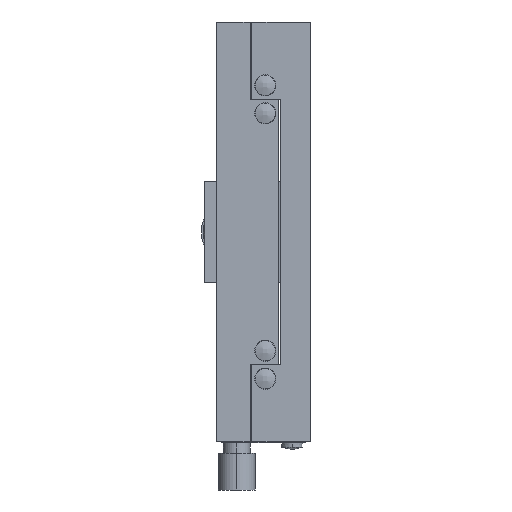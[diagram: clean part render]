
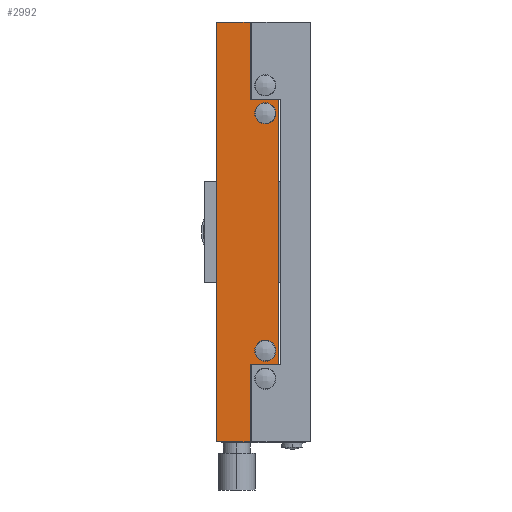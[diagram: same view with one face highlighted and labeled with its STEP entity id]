
A CAD part, left-side view. The second image highlights one B-rep face of the part: STEP entity #2992.
In plain terms, the highlighted planar face has unit normal (-1, 0, 0).
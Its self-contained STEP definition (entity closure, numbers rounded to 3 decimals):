
#1714 = VERTEX_POINT ( 'NONE', #7493 ) ;
#1715 = VERTEX_POINT ( 'NONE', #7492 ) ;
#1717 = EDGE_CURVE ( 'NONE', #1715, #1714, #7491, .T. ) ;
#2020 = EDGE_CURVE ( 'NONE', #2021, #2022, #7837, .T. ) ;
#2021 = VERTEX_POINT ( 'NONE', #7833 ) ;
#2022 = VERTEX_POINT ( 'NONE', #7832 ) ;
#2165 = EDGE_CURVE ( 'NONE', #2217, #2218, #8638, .T. ) ;
#2215 = EDGE_CURVE ( 'NONE', #2280, #2283, #8673, .T. ) ;
#2217 = VERTEX_POINT ( 'NONE', #8669 ) ;
#2218 = VERTEX_POINT ( 'NONE', #8668 ) ;
#2241 = EDGE_CURVE ( 'NONE', #1714, #1715, #9070, .T. ) ;
#2280 = VERTEX_POINT ( 'NONE', #8998 ) ;
#2282 = EDGE_CURVE ( 'NONE', #2283, #2280, #8997, .T. ) ;
#2283 = VERTEX_POINT ( 'NONE', #8992 ) ;
#2674 = ORIENTED_EDGE ( 'NONE', *, *, #2241, .T. ) ;
#2692 = ORIENTED_EDGE ( 'NONE', *, *, #2020, .F. ) ;
#2693 = ORIENTED_EDGE ( 'NONE', *, *, #2694, .F. ) ;
#2694 = EDGE_CURVE ( 'NONE', #2695, #2021, #11044, .T. ) ;
#2695 = VERTEX_POINT ( 'NONE', #11039 ) ;
#2696 = ORIENTED_EDGE ( 'NONE', *, *, #2697, .F. ) ;
#2697 = EDGE_CURVE ( 'NONE', #2698, #2695, #11040, .T. ) ;
#2698 = VERTEX_POINT ( 'NONE', #11029 ) ;
#2699 = ORIENTED_EDGE ( 'NONE', *, *, #2700, .F. ) ;
#2700 = EDGE_CURVE ( 'NONE', #2701, #2698, #11028, .T. ) ;
#2701 = VERTEX_POINT ( 'NONE', #11024 ) ;
#2702 = ORIENTED_EDGE ( 'NONE', *, *, #2703, .F. ) ;
#2703 = EDGE_CURVE ( 'NONE', #2704, #2701, #11023, .T. ) ;
#2704 = VERTEX_POINT ( 'NONE', #11019 ) ;
#2705 = ORIENTED_EDGE ( 'NONE', *, *, #2743, .F. ) ;
#2743 = EDGE_CURVE ( 'NONE', #2218, #2704, #10951, .T. ) ;
#2744 = ORIENTED_EDGE ( 'NONE', *, *, #2165, .F. ) ;
#2745 = EDGE_LOOP ( 'NONE', ( #2746, #2747 ) ) ;
#2746 = ORIENTED_EDGE ( 'NONE', *, *, #2282, .T. ) ;
#2747 = ORIENTED_EDGE ( 'NONE', *, *, #2215, .T. ) ;
#2748 = EDGE_LOOP ( 'NONE', ( #2749, #2674 ) ) ;
#2749 = ORIENTED_EDGE ( 'NONE', *, *, #1717, .T. ) ;
#2992 = ADVANCED_FACE ( 'NONE', ( #10496, #10495, #10494 ), #10493, .F. ) ;
#2993 = EDGE_LOOP ( 'NONE', ( #2994, #2692, #2693, #2696, #2699, #2702, #2705, #2744 ) ) ;
#2994 = ORIENTED_EDGE ( 'NONE', *, *, #2995, .F. ) ;
#2995 = EDGE_CURVE ( 'NONE', #2022, #2217, #10488, .T. ) ;
#7487 = DIRECTION ( 'NONE',  ( 0., 0., -1. ) ) ;
#7488 = DIRECTION ( 'NONE',  ( 1., 0., 0. ) ) ;
#7489 = CARTESIAN_POINT ( 'NONE',  ( -75., 13.5, 35.35 ) ) ;
#7490 = AXIS2_PLACEMENT_3D ( 'NONE', #7489, #7488, #7487 ) ;
#7491 = CIRCLE ( 'NONE', #7490, 3.15 ) ;
#7492 = CARTESIAN_POINT ( 'NONE',  ( -75., 13.5, 32.2 ) ) ;
#7493 = CARTESIAN_POINT ( 'NONE',  ( -75., 13.5, 38.5 ) ) ;
#7832 = CARTESIAN_POINT ( 'NONE',  ( -75., 9.5, 39.5 ) ) ;
#7833 = CARTESIAN_POINT ( 'NONE',  ( -75., 18., 39.5 ) ) ;
#7834 = DIRECTION ( 'NONE',  ( 0., -1., 0. ) ) ;
#7835 = VECTOR ( 'NONE', #7834, 1000. ) ;
#7836 = CARTESIAN_POINT ( 'NONE',  ( -75., 18., 39.5 ) ) ;
#7837 = LINE ( 'NONE', #7836, #7835 ) ;
#8635 = DIRECTION ( 'NONE',  ( 0., 1., 0. ) ) ;
#8636 = VECTOR ( 'NONE', #8635, 1000. ) ;
#8637 = CARTESIAN_POINT ( 'NONE',  ( -75., 18., -39.5 ) ) ;
#8638 = LINE ( 'NONE', #8637, #8636 ) ;
#8668 = CARTESIAN_POINT ( 'NONE',  ( -75., 18., -39.5 ) ) ;
#8669 = CARTESIAN_POINT ( 'NONE',  ( -75., 9.5, -39.5 ) ) ;
#8670 = DIRECTION ( 'NONE',  ( 0., 0., 1. ) ) ;
#8671 = DIRECTION ( 'NONE',  ( 1., 0., 0. ) ) ;
#8672 = AXIS2_PLACEMENT_3D ( 'NONE', #8678, #8671, #8670 ) ;
#8673 = CIRCLE ( 'NONE', #8672, 3.15 ) ;
#8678 = CARTESIAN_POINT ( 'NONE',  ( -75., 13.5, -35.35 ) ) ;
#8992 = CARTESIAN_POINT ( 'NONE',  ( -75., 13.5, -32.2 ) ) ;
#8993 = DIRECTION ( 'NONE',  ( 0., 0., 1. ) ) ;
#8994 = DIRECTION ( 'NONE',  ( 1., 0., 0. ) ) ;
#8995 = CARTESIAN_POINT ( 'NONE',  ( -75., 13.5, -35.35 ) ) ;
#8996 = AXIS2_PLACEMENT_3D ( 'NONE', #8995, #8994, #8993 ) ;
#8997 = CIRCLE ( 'NONE', #8996, 3.15 ) ;
#8998 = CARTESIAN_POINT ( 'NONE',  ( -75., 13.5, -38.5 ) ) ;
#9066 = DIRECTION ( 'NONE',  ( 0., 0., -1. ) ) ;
#9067 = DIRECTION ( 'NONE',  ( 1., 0., 0. ) ) ;
#9068 = CARTESIAN_POINT ( 'NONE',  ( -75., 13.5, 35.35 ) ) ;
#9069 = AXIS2_PLACEMENT_3D ( 'NONE', #9068, #9067, #9066 ) ;
#9070 = CIRCLE ( 'NONE', #9069, 3.15 ) ;
#10485 = DIRECTION ( 'NONE',  ( 0., 0., -1. ) ) ;
#10486 = VECTOR ( 'NONE', #10485, 1000. ) ;
#10487 = CARTESIAN_POINT ( 'NONE',  ( -75., 9.5, -30.5 ) ) ;
#10488 = LINE ( 'NONE', #10487, #10486 ) ;
#10489 = DIRECTION ( 'NONE',  ( 0., 0., -1. ) ) ;
#10490 = DIRECTION ( 'NONE',  ( 1., 0., 0. ) ) ;
#10491 = CARTESIAN_POINT ( 'NONE',  ( -75., 15., 62.5 ) ) ;
#10492 = AXIS2_PLACEMENT_3D ( 'NONE', #10491, #10490, #10489 ) ;
#10493 = PLANE ( 'NONE',  #10492 ) ;
#10494 = FACE_BOUND ( 'NONE', #2748, .T. ) ;
#10495 = FACE_BOUND ( 'NONE', #2745, .T. ) ;
#10496 = FACE_OUTER_BOUND ( 'NONE', #2993, .T. ) ;
#10948 = DIRECTION ( 'NONE',  ( 0., 0., -1. ) ) ;
#10949 = VECTOR ( 'NONE', #10948, 1000. ) ;
#10950 = CARTESIAN_POINT ( 'NONE',  ( -75., 18., -62.5 ) ) ;
#10951 = LINE ( 'NONE', #10950, #10949 ) ;
#11019 = CARTESIAN_POINT ( 'NONE',  ( -75., 18., -62.5 ) ) ;
#11020 = DIRECTION ( 'NONE',  ( 0., 1., 0. ) ) ;
#11021 = VECTOR ( 'NONE', #11020, 1000. ) ;
#11022 = CARTESIAN_POINT ( 'NONE',  ( -75., 28., -62.5 ) ) ;
#11023 = LINE ( 'NONE', #11022, #11021 ) ;
#11024 = CARTESIAN_POINT ( 'NONE',  ( -75., 28., -62.5 ) ) ;
#11025 = DIRECTION ( 'NONE',  ( 0., 0., 1. ) ) ;
#11026 = VECTOR ( 'NONE', #11025, 1000. ) ;
#11027 = CARTESIAN_POINT ( 'NONE',  ( -75., 28., 62.5 ) ) ;
#11028 = LINE ( 'NONE', #11027, #11026 ) ;
#11029 = CARTESIAN_POINT ( 'NONE',  ( -75., 28., 62.5 ) ) ;
#11030 = DIRECTION ( 'NONE',  ( 0., -1., 0. ) ) ;
#11031 = VECTOR ( 'NONE', #11030, 1000. ) ;
#11032 = CARTESIAN_POINT ( 'NONE',  ( -75., 28., 62.5 ) ) ;
#11039 = CARTESIAN_POINT ( 'NONE',  ( -75., 18., 62.5 ) ) ;
#11040 = LINE ( 'NONE', #11032, #11031 ) ;
#11041 = DIRECTION ( 'NONE',  ( 0., 0., -1. ) ) ;
#11042 = VECTOR ( 'NONE', #11041, 1000. ) ;
#11043 = CARTESIAN_POINT ( 'NONE',  ( -75., 18., 62.5 ) ) ;
#11044 = LINE ( 'NONE', #11043, #11042 ) ;
